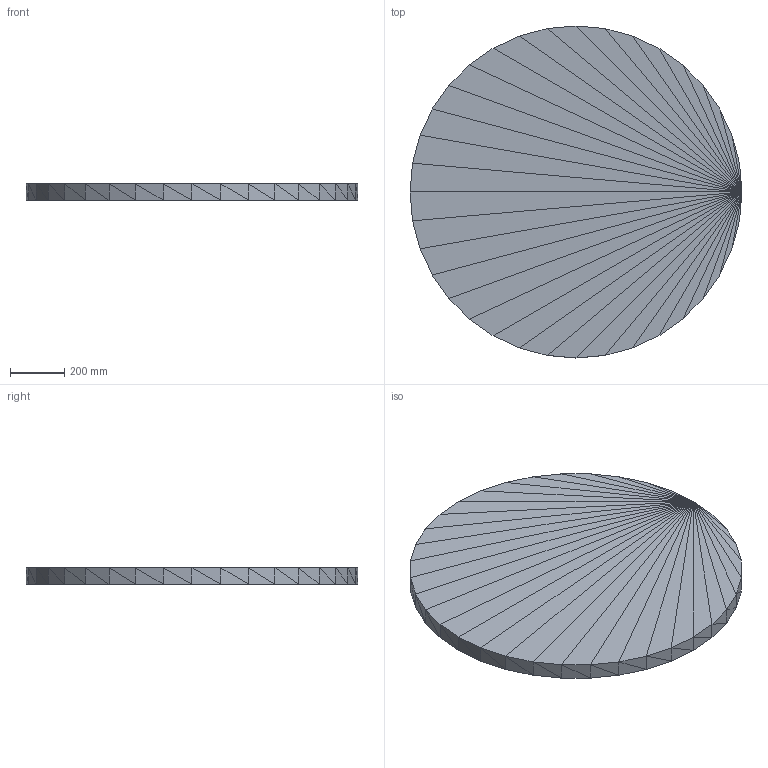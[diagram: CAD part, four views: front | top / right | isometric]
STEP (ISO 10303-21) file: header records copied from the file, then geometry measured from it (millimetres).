
FILE_DESCRIPTION(('ISINAC STEP AP214'),'2;1');
FILE_NAME('ISINAC_CIR.1220_60mm_ADHESIVO','2026-05-03T10:49:20',('ISINAC'),('www.isinac.com'),'ISINAC BIM Generator 1.0','','');
FILE_SCHEMA(('AUTOMOTIVE_DESIGN'));
Length unit declared in the file: millimetre
Products named in the file (1): ISINAC_CIR.1220_60mm_ADHESIVO
Bounding box: 1220 x 1220 x 60 mm (x, y, z)
Surface area: 2555794.2 mm2 (no closed solid volume)
Topology: 0 solids, 140 shells, 140 faces, 420 edges, 420 vertices
Faces by surface type: plane 140
Entity records: 1553 total; most frequent: CARTESIAN_POINT 560, DIRECTION 280, POLY_LOOP 140, FACE_OUTER_BOUND 140, AXIS2_PLACEMENT_3D 140, PLANE 140, FACE_SURFACE 140, CLOSED_SHELL 1
